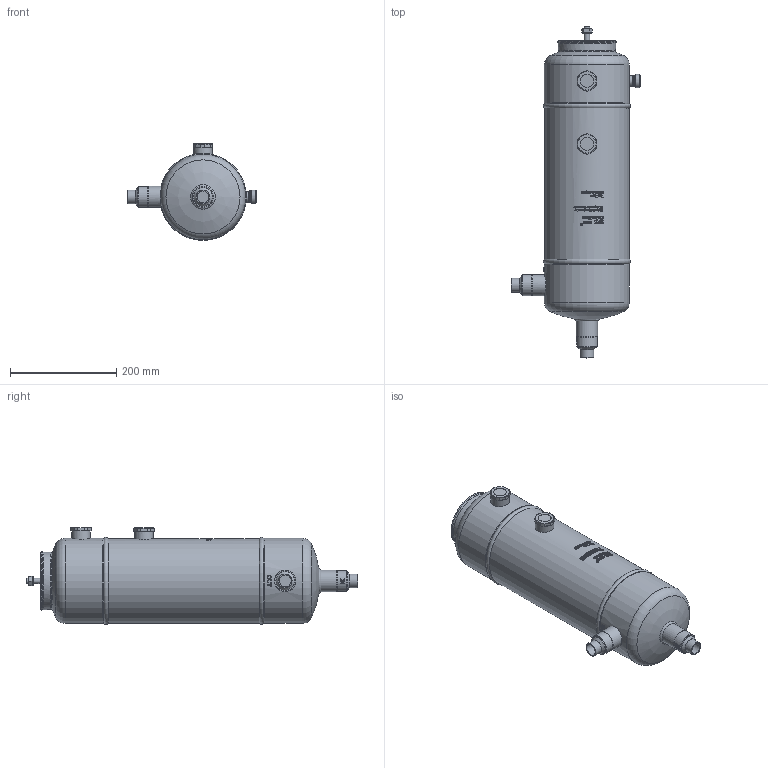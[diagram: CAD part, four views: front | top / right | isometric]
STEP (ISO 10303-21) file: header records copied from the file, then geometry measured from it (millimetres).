
FILE_DESCRIPTION(/* description */ (''),/* implementation_level */ '2;1');
FILE_NAME(/* name */ 'P:\OSR\OSR-5-35_22\OSR-5-35_22.stp',/* time_stamp */ '2015-07-02T11:49:53+02:00',/* author */ ('neufeld'),/* organization */ (''),/* preprocessor_version */ 'ST-DEVELOPER v15.2',/* originating_system */ 'Autodesk Inventor 2014',/* authorisation */ '');
FILE_SCHEMA (('AUTOMOTIVE_DESIGN { 1 0 10303 214 3 1 1 }'));
Products named in the file (1): OSR-5-35_22_AG-Kunde
Bounding box: 243.74 x 624.6 x 182.3 mm (x, y, z)
Volume: 10025067.9 mm3; surface area: 319988.2 mm2
Topology: 1 solids, 1 shells, 1453 faces, 3921 edges, 2640 vertices
Faces by surface type: plane 692, bspline 554, cylinder 167, cone 23, torus 16, sphere 1
Full cylindrical faces by diameter (mm): 10 x2, 13.3 x1, 15.75 x1, 15.87 x1, 19.05 x1, 20 x1, 22.4 x2, 22.5 x2, 24.2 x2, 25.2 x1, 26 x2, 35 x4, 39 x2, 40 x2, 159 x1, 160 x2
Entity records: 56978 total; most frequent: CARTESIAN_POINT 23615, ORIENTED_EDGE 7650, DIRECTION 5466, EDGE_CURVE 3813, VERTEX_POINT 2560, AXIS2_PLACEMENT_3D 1853, LINE 1760, VECTOR 1760
